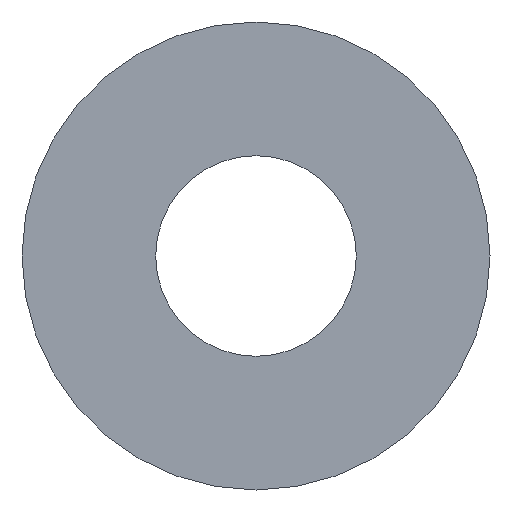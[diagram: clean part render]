
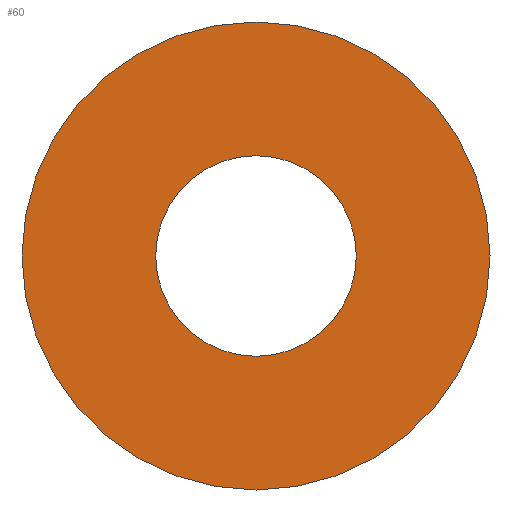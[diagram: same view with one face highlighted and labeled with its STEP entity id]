
A CAD part, left-side view. The second image highlights one B-rep face of the part: STEP entity #60.
In plain terms, the highlighted planar face has unit normal (-1, 0, 0).
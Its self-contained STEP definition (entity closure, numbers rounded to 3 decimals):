
#22=ORIENTED_EDGE('',*,*,#30,.F.);
#23=ORIENTED_EDGE('',*,*,#31,.T.);
#30=EDGE_CURVE('',#34,#34,#38,.T.);
#31=EDGE_CURVE('',#35,#35,#39,.T.);
#34=VERTEX_POINT('',#106);
#35=VERTEX_POINT('',#108);
#38=CIRCLE('',#78,7.);
#39=CIRCLE('',#79,3.);
#42=EDGE_LOOP('',(#22));
#43=EDGE_LOOP('',(#23));
#50=FACE_BOUND('',#42,.T.);
#51=FACE_BOUND('',#43,.T.);
#58=PLANE('',#77);
#60=ADVANCED_FACE('',(#50,#51),#58,.F.);
#77=AXIS2_PLACEMENT_3D('',#104,#87,#88);
#78=AXIS2_PLACEMENT_3D('',#105,#89,#90);
#79=AXIS2_PLACEMENT_3D('',#107,#91,#92);
#87=DIRECTION('',(1.,0.,0.));
#88=DIRECTION('',(0.,0.,-1.));
#89=DIRECTION('',(1.,0.,0.));
#90=DIRECTION('',(0.,0.,-1.));
#91=DIRECTION('',(1.,0.,0.));
#92=DIRECTION('',(0.,0.,-1.));
#104=CARTESIAN_POINT('',(0.,0.,0.));
#105=CARTESIAN_POINT('',(0.,0.,0.));
#106=CARTESIAN_POINT('',(0.,0.,-7.));
#107=CARTESIAN_POINT('',(0.,0.,0.));
#108=CARTESIAN_POINT('',(0.,0.,-3.));
